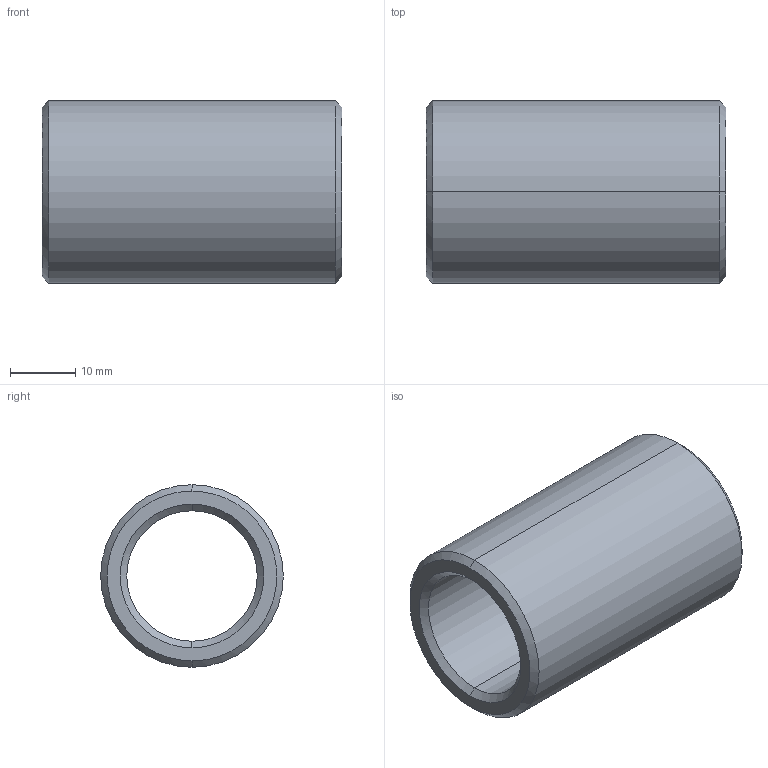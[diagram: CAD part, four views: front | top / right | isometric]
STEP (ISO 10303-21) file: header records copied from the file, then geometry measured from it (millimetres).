
FILE_DESCRIPTION(('CATIA V5 STEP Exchange'),'2;1');
FILE_NAME('C:\Users\Utente\Desktop\IO LAVORO\3D X SITO CF\X SITO\PLASTICA\352\352-20X46.stp','2021-04-12T15:22:10+00:00',('none'),('none'),'CATIA Version 5 Release 20 GA (IN-10)','CATIA V5 STEP AP203','none');
FILE_SCHEMA(('CONFIG_CONTROL_DESIGN'));
Length unit declared in the file: millimetre
Products named in the file (1): 352-20X46
Bounding box: 46 x 28 x 28 mm (x, y, z)
Volume: 13741.2 mm3; surface area: 7372.1 mm2
Topology: 1 solids, 1 shells, 14 faces, 44 edges, 32 vertices
Faces by surface type: cone 6, cylinder 4, plane 2, torus 2
Entity records: 634 total; most frequent: CARTESIAN_POINT 203, ORIENTED_EDGE 88, DIRECTION 64, EDGE_CURVE 44, AXIS2_PLACEMENT_3D 41, VERTEX_POINT 32, CIRCLE 26, EDGE_LOOP 16
